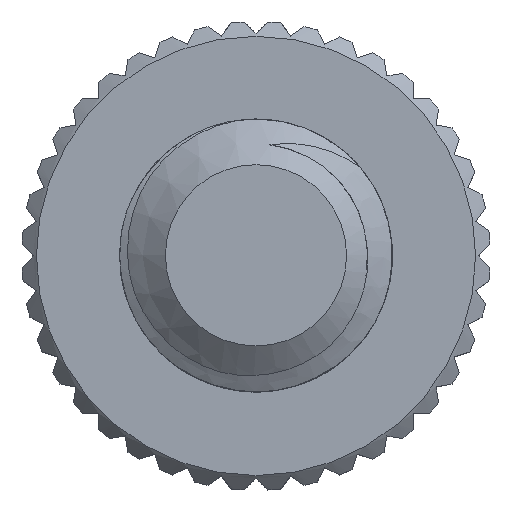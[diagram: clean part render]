
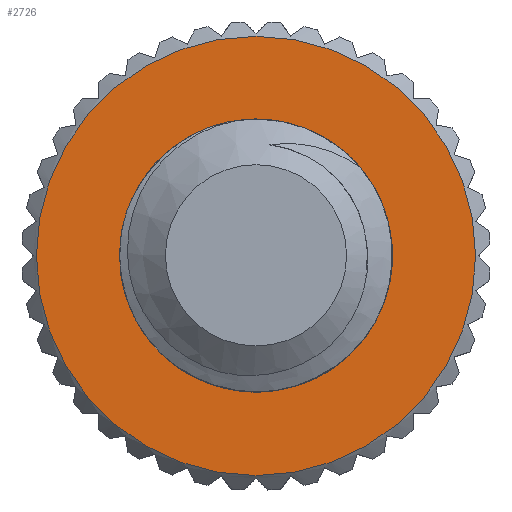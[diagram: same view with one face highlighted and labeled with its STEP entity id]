
A CAD part, top view. The second image highlights one B-rep face of the part: STEP entity #2726.
In plain terms, the highlighted planar face has unit normal (0, 0, 1).
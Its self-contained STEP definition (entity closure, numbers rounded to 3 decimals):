
#15=FACE_BOUND('',#567,.T.);
#268=PLANE('',#2986);
#420=FACE_OUTER_BOUND('',#566,.T.);
#566=EDGE_LOOP('',(#2512));
#567=EDGE_LOOP('',(#2513));
#582=CIRCLE('',#2771,7.5);
#664=CIRCLE('',#2985,4.031);
#1005=VERTEX_POINT('',#4582);
#1252=VERTEX_POINT('',#5650);
#1304=EDGE_CURVE('',#1005,#1005,#582,.T.);
#1678=EDGE_CURVE('',#1252,#1252,#664,.T.);
#2512=ORIENTED_EDGE('',*,*,#1304,.F.);
#2513=ORIENTED_EDGE('',*,*,#1678,.F.);
#2726=ADVANCED_FACE('',(#420,#15),#268,.T.);
#2771=AXIS2_PLACEMENT_3D('',#4583,#3058,#3059);
#2985=AXIS2_PLACEMENT_3D('',#5652,#3610,#3611);
#2986=AXIS2_PLACEMENT_3D('',#5653,#3612,#3613);
#3058=DIRECTION('center_axis',(0.,0.,-1.));
#3059=DIRECTION('ref_axis',(-1.,0.,0.));
#3610=DIRECTION('center_axis',(0.,0.,1.));
#3611=DIRECTION('ref_axis',(-1.,0.,0.));
#3612=DIRECTION('center_axis',(0.,0.,1.));
#3613=DIRECTION('ref_axis',(1.,0.,0.));
#4582=CARTESIAN_POINT('',(7.5,0.,2.5));
#4583=CARTESIAN_POINT('Origin',(0.,0.,2.5));
#5650=CARTESIAN_POINT('',(4.031,0.,2.5));
#5652=CARTESIAN_POINT('Origin',(0.,0.,2.5));
#5653=CARTESIAN_POINT('Origin',(0.,0.,2.5));
